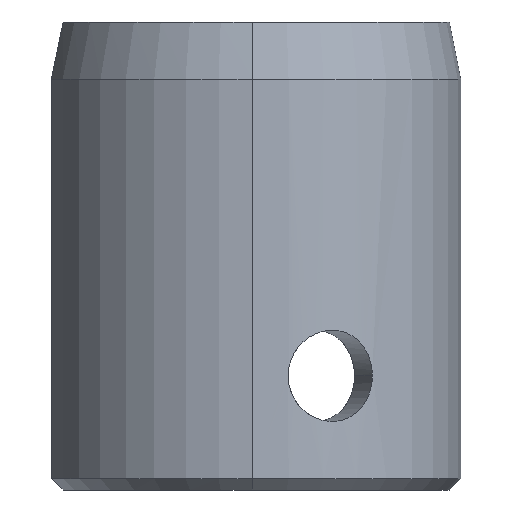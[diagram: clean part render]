
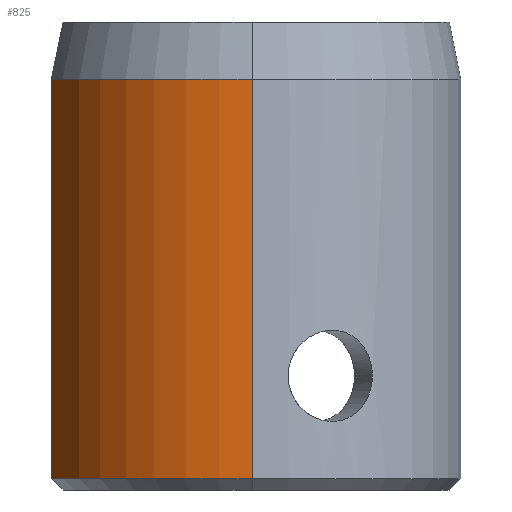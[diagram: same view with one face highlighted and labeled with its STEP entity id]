
A CAD part, left-side view. The second image highlights one B-rep face of the part: STEP entity #825.
In plain terms, the highlighted cylindrical face has radius 18.256 mm (diameter 36.512 mm), a partial arc.
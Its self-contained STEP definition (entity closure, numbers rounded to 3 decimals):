
#1 = CARTESIAN_POINT ( 'NONE',  ( 0., 0., 20.5 ) ) ;
#17 = ORIENTED_EDGE ( 'NONE', *, *, #303, .F. ) ;
#35 = DIRECTION ( 'NONE',  ( 0., 0., -1. ) ) ;
#37 = DIRECTION ( 'NONE',  ( -1., 0., 0. ) ) ;
#77 = DIRECTION ( 'NONE',  ( 0., 0., -1. ) ) ;
#180 = EDGE_CURVE ( 'NONE', #1072, #424, #719, .T. ) ;
#193 = DIRECTION ( 'NONE',  ( 0., 0., -1. ) ) ;
#210 = DIRECTION ( 'NONE',  ( 1., 0., 0. ) ) ;
#214 = EDGE_LOOP ( 'NONE', ( #17, #626, #730, #966 ) ) ;
#249 = DIRECTION ( 'NONE',  ( 0., 0., 1. ) ) ;
#257 = AXIS2_PLACEMENT_3D ( 'NONE', #762, #249, #843 ) ;
#275 = AXIS2_PLACEMENT_3D ( 'NONE', #809, #35, #210 ) ;
#303 = EDGE_CURVE ( 'NONE', #1072, #1040, #1043, .T. ) ;
#361 = EDGE_CURVE ( 'NONE', #424, #367, #777, .T. ) ;
#367 = VERTEX_POINT ( 'NONE', #475 ) ;
#424 = VERTEX_POINT ( 'NONE', #737 ) ;
#475 = CARTESIAN_POINT ( 'NONE',  ( -4.763, 17.624, -19.5 ) ) ;
#517 = EDGE_CURVE ( 'NONE', #367, #1040, #1047, .T. ) ;
#530 = VECTOR ( 'NONE', #193, 1000. ) ;
#556 = DIRECTION ( 'NONE',  ( 0., 0., -1. ) ) ;
#605 = AXIS2_PLACEMENT_3D ( 'NONE', #1, #77, #37 ) ;
#615 = VECTOR ( 'NONE', #556, 1000. ) ;
#626 = ORIENTED_EDGE ( 'NONE', *, *, #180, .T. ) ;
#635 = CARTESIAN_POINT ( 'NONE',  ( -18.256, 0., 20.5 ) ) ;
#719 = CIRCLE ( 'NONE', #275, 18.256 ) ;
#730 = ORIENTED_EDGE ( 'NONE', *, *, #361, .T. ) ;
#737 = CARTESIAN_POINT ( 'NONE',  ( -4.763, 17.624, 15.5 ) ) ;
#762 = CARTESIAN_POINT ( 'NONE',  ( 0., 0., -19.5 ) ) ;
#775 = CARTESIAN_POINT ( 'NONE',  ( -18.256, 0., -19.5 ) ) ;
#777 = LINE ( 'NONE', #883, #530 ) ;
#809 = CARTESIAN_POINT ( 'NONE',  ( 0., 0., 15.5 ) ) ;
#825 = ADVANCED_FACE ( 'NONE', ( #1002 ), #1011, .T. ) ;
#843 = DIRECTION ( 'NONE',  ( 1., 0., 0. ) ) ;
#845 = CARTESIAN_POINT ( 'NONE',  ( -18.256, 0., 15.5 ) ) ;
#883 = CARTESIAN_POINT ( 'NONE',  ( -4.763, 17.624, 20.5 ) ) ;
#966 = ORIENTED_EDGE ( 'NONE', *, *, #517, .T. ) ;
#1002 = FACE_OUTER_BOUND ( 'NONE', #214, .T. ) ;
#1011 = CYLINDRICAL_SURFACE ( 'NONE', #605, 18.256 ) ;
#1040 = VERTEX_POINT ( 'NONE', #775 ) ;
#1043 = LINE ( 'NONE', #635, #615 ) ;
#1047 = CIRCLE ( 'NONE', #257, 18.256 ) ;
#1072 = VERTEX_POINT ( 'NONE', #845 ) ;
